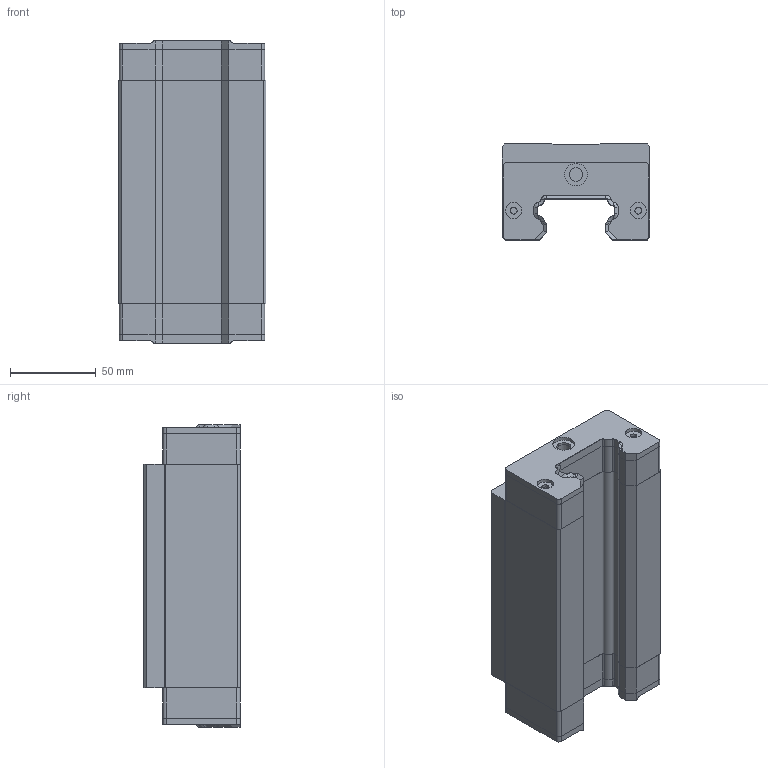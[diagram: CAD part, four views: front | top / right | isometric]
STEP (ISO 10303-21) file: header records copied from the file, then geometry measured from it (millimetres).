
FILE_DESCRIPTION(('FreeCAD Model'),'2;1');
FILE_NAME('Open CASCADE Shape Model','2022-10-12T10:33:39',('Author'),( ''),'Open CASCADE STEP processor 7.5','FreeCAD','Unknown');
FILE_SCHEMA(('AUTOMOTIVE_DESIGN { 1 0 10303 214 1 1 1 1 }'));
Length unit declared in the file: millimetre
Products named in the file (4): Unnamed; Product005; Product; Product001
Assembly tree (5 placements, depth 2):
  Unnamed
    Product005
    Product  x2
    Product001  x2
Bounding box: 86 x 56 x 176 mm (x, y, z)
Volume: 610983.6 mm3; surface area: 92618.4 mm2
Topology: 5 solids, 5 shells, 220 faces, 614 edges, 414 vertices
Faces by surface type: plane 117, bspline 65, cylinder 38
Full cylindrical faces by diameter (mm): 4 x8, 8 x4, 9.5 x4, 10 x4, 13 x2
Entity records: 9924 total; most frequent: CARTESIAN_POINT 3854, DIRECTION 837, ORIENTED_EDGE 692, PCURVE 692, DEFINITIONAL_REPRESENTATION 692, LINE 521, VECTOR 521, EDGE_CURVE 346
